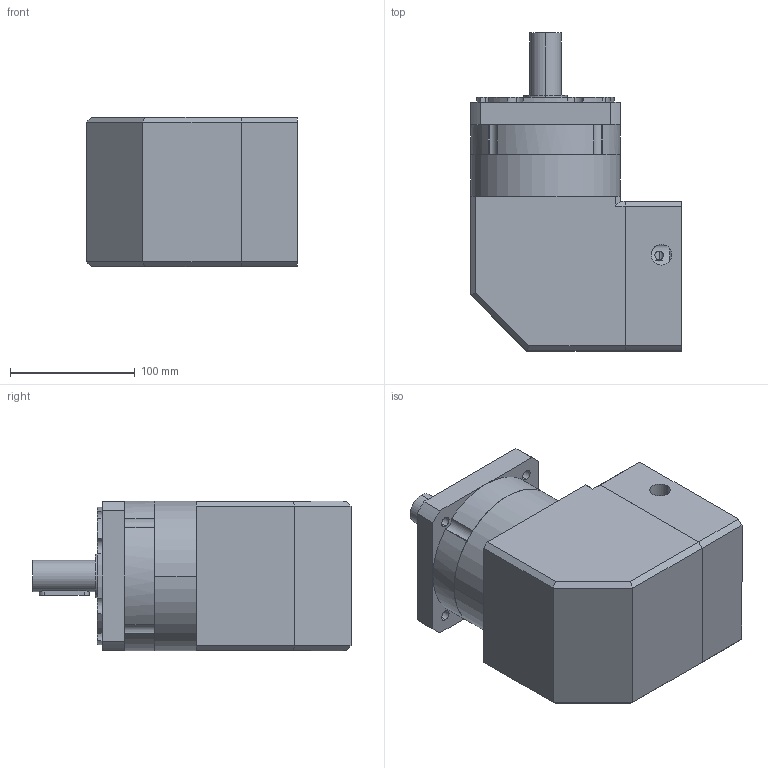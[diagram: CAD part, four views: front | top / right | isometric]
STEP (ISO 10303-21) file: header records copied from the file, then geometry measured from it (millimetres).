
FILE_DESCRIPTION (( 'STEP AP214' ), '1' );
FILE_NAME ('PVFN120-L1.STEP', '2020-09-16T08:34:19', ( '微软用户' ), ( '微软中国' ), 'SwSTEP 2.0', 'SolidWorks 2014', '' );
FILE_SCHEMA (( 'AUTOMOTIVE_DESIGN' ));
Length unit declared in the file: millimetre
Products named in the file (17): 螺釘範本 M8x20; PFR120-薊粣ん-梓袧; PFR120-蟀諉啣; PFR120 奻屳唳; PFR120 κｳﾝﾈｦ_ﾒｻｼｶﾄﾚｳﾝﾈｦ; PFR120-眊极; PVFN120-L1; 粣創-3207A 35x72x27_2; 邧埴瑩 8x7x40
Assembly tree (8 placements, depth 2):
  螺釘範本 M8x20
  PFR120-薊粣ん-梓袧
  PFR120-蟀諉啣
  PFR120 奻屳唳
  PFR120 κｳﾝﾈｦ_ﾒｻｼｶﾄﾚｳﾝﾈｦ
Bounding box: 169 x 255 x 120 mm (x, y, z)
Volume: 3072451.1 mm3; surface area: 319810.2 mm2
Topology: 8 solids, 16 shells, 594 faces, 1639 edges, 1064 vertices
Faces by surface type: cylinder 225, plane 207, bspline 138, cone 24
Entity records: 29897 total; most frequent: CARTESIAN_POINT 8356, ORIENTED_EDGE 3242, DIRECTION 2871, EDGE_CURVE 1621, AXIS2_PLACEMENT_3D 1143, VERTEX_POINT 1064, CIRCLE 675, EDGE_LOOP 675
